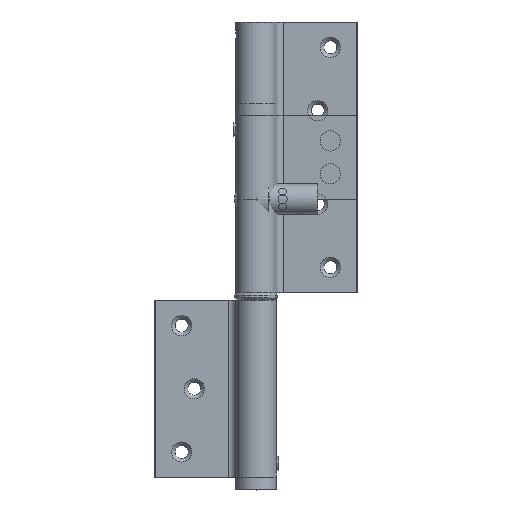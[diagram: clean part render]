
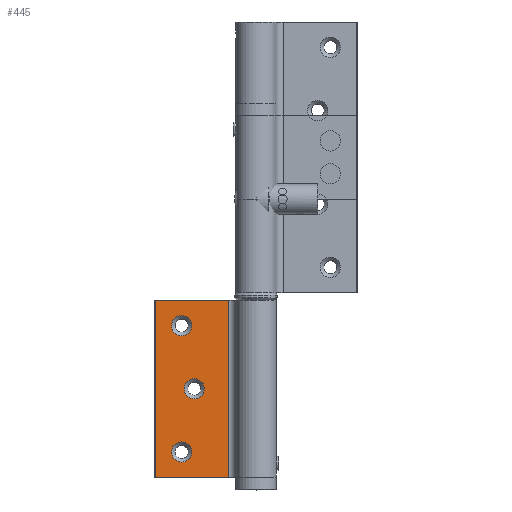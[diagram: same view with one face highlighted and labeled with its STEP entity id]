
A CAD part, top view. The second image highlights one B-rep face of the part: STEP entity #445.
In plain terms, the highlighted planar face has unit normal (0, 0, 1).
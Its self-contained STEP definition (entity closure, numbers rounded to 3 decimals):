
#445 = ADVANCED_FACE( '', ( #969, #970, #971, #972 ), #973, .T. );
#969 = FACE_OUTER_BOUND( '', #1515, .T. );
#970 = FACE_BOUND( '', #1516, .T. );
#971 = FACE_BOUND( '', #1517, .T. );
#972 = FACE_BOUND( '', #1518, .T. );
#973 = PLANE( '', #1519 );
#1515 = EDGE_LOOP( '', ( #2548, #2549, #2550, #2551 ) );
#1516 = EDGE_LOOP( '', ( #2552 ) );
#1517 = EDGE_LOOP( '', ( #2553 ) );
#1518 = EDGE_LOOP( '', ( #2554 ) );
#1519 = AXIS2_PLACEMENT_3D( '', #2555, #2556, #2557 );
#2548 = ORIENTED_EDGE( '', *, *, #2827, .T. );
#2549 = ORIENTED_EDGE( '', *, *, #2755, .T. );
#2550 = ORIENTED_EDGE( '', *, *, #3065, .F. );
#2551 = ORIENTED_EDGE( '', *, *, #2914, .F. );
#2552 = ORIENTED_EDGE( '', *, *, #2806, .T. );
#2553 = ORIENTED_EDGE( '', *, *, #2980, .T. );
#2554 = ORIENTED_EDGE( '', *, *, #3024, .T. );
#2555 = CARTESIAN_POINT( '', ( 39.7, 0., -1. ) );
#2556 = DIRECTION( '', ( 0., 0., 1. ) );
#2557 = DIRECTION( '', ( 1., 0., 0. ) );
#2755 = EDGE_CURVE( '', #3201, #3199, #3202, .T. );
#2806 = EDGE_CURVE( '', #3289, #3289, #3290, .T. );
#2827 = EDGE_CURVE( '', #3324, #3201, #3325, .T. );
#2914 = EDGE_CURVE( '', #3324, #3445, #3455, .T. );
#2980 = EDGE_CURVE( '', #3543, #3543, #3544, .T. );
#3024 = EDGE_CURVE( '', #3603, #3603, #3604, .T. );
#3065 = EDGE_CURVE( '', #3445, #3199, #3651, .T. );
#3199 = VERTEX_POINT( '', #3982 );
#3201 = VERTEX_POINT( '', #3984 );
#3202 = LINE( '', #3985, #3986 );
#3289 = VERTEX_POINT( '', #4325 );
#3290 = CIRCLE( '', #4326, 4. );
#3324 = VERTEX_POINT( '', #4367 );
#3325 = LINE( '', #4368, #4369 );
#3445 = VERTEX_POINT( '', #4532 );
#3455 = LINE( '', #4543, #4544 );
#3543 = VERTEX_POINT( '', #4681 );
#3544 = CIRCLE( '', #4682, 4. );
#3603 = VERTEX_POINT( '', #4906 );
#3604 = CIRCLE( '', #4907, 4. );
#3651 = LINE( '', #5012, #5013 );
#3982 = CARTESIAN_POINT( '', ( 10.817, 70., -1. ) );
#3984 = CARTESIAN_POINT( '', ( 39.7, 70., -1. ) );
#3985 = CARTESIAN_POINT( '', ( 39.7, 70., -1. ) );
#3986 = VECTOR( '', #5144, 1000. );
#4325 = CARTESIAN_POINT( '', ( 33.4, 10., -1. ) );
#4326 = AXIS2_PLACEMENT_3D( '', #5204, #5205, #5206 );
#4367 = CARTESIAN_POINT( '', ( 39.7, 0., -1. ) );
#4368 = CARTESIAN_POINT( '', ( 39.7, 0., -1. ) );
#4369 = VECTOR( '', #5238, 1000. );
#4532 = CARTESIAN_POINT( '', ( 10.817, 0., -1. ) );
#4543 = CARTESIAN_POINT( '', ( 39.7, 0., -1. ) );
#4544 = VECTOR( '', #5353, 1000. );
#4681 = CARTESIAN_POINT( '', ( 28.4, 35., -1. ) );
#4682 = AXIS2_PLACEMENT_3D( '', #5442, #5443, #5444 );
#4906 = CARTESIAN_POINT( '', ( 33.4, 60., -1. ) );
#4907 = AXIS2_PLACEMENT_3D( '', #5488, #5489, #5490 );
#5012 = CARTESIAN_POINT( '', ( 10.817, 0., -1. ) );
#5013 = VECTOR( '', #5525, 1000. );
#5144 = DIRECTION( '', ( -1., 0., 0. ) );
#5204 = CARTESIAN_POINT( '', ( 29.4, 10., -1. ) );
#5205 = DIRECTION( '', ( 0., 0., -1. ) );
#5206 = DIRECTION( '', ( 1., 0., 0. ) );
#5238 = DIRECTION( '', ( 0., 1., 0. ) );
#5353 = DIRECTION( '', ( -1., 0., 0. ) );
#5442 = CARTESIAN_POINT( '', ( 24.4, 35., -1. ) );
#5443 = DIRECTION( '', ( 0., 0., -1. ) );
#5444 = DIRECTION( '', ( 1., 0., 0. ) );
#5488 = CARTESIAN_POINT( '', ( 29.4, 60., -1. ) );
#5489 = DIRECTION( '', ( 0., 0., -1. ) );
#5490 = DIRECTION( '', ( 1., 0., 0. ) );
#5525 = DIRECTION( '', ( 0., 1., 0. ) );
